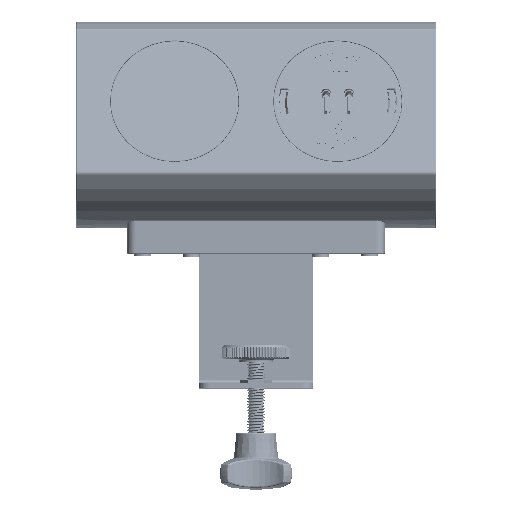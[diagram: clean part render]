
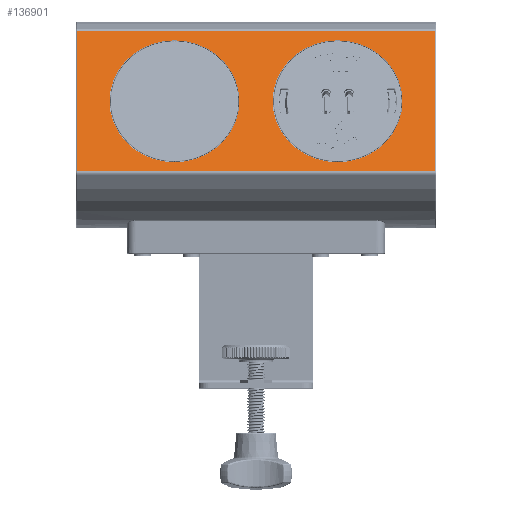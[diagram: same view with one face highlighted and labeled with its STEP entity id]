
A CAD part, top view. The second image highlights one B-rep face of the part: STEP entity #136901.
In plain terms, the highlighted planar face has unit normal (0, 0.342, 0.94).
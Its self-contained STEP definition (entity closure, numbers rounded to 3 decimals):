
#1223 = LINE ( 'NONE', #48321, #62741 ) ;
#2171 = EDGE_CURVE ( 'NONE', #125054, #125054, #58366, .T. ) ;
#8750 = EDGE_CURVE ( 'NONE', #128053, #121860, #131479, .T. ) ;
#9664 = CARTESIAN_POINT ( 'NONE',  ( 62.8, 32.791, 13.871 ) ) ;
#10854 = ORIENTED_EDGE ( 'NONE', *, *, #60972, .T. ) ;
#15143 = EDGE_CURVE ( 'NONE', #54722, #104297, #1223, .T. ) ;
#19565 = EDGE_CURVE ( 'NONE', #54722, #121860, #41942, .T. ) ;
#20005 = VERTEX_POINT ( 'NONE', #45087 ) ;
#20664 = DIRECTION ( 'NONE',  ( 0., 0.94, -0.342 ) ) ;
#22162 = CARTESIAN_POINT ( 'NONE',  ( -28.5, 8.294, 22.788 ) ) ;
#24115 = ORIENTED_EDGE ( 'NONE', *, *, #2171, .T. ) ;
#24136 = EDGE_LOOP ( 'NONE', ( #24115 ) ) ;
#29150 = LINE ( 'NONE', #113142, #85681 ) ;
#32623 = EDGE_LOOP ( 'NONE', ( #130321, #75994, #87085, #42755 ) ) ;
#33954 = DIRECTION ( 'NONE',  ( 0., -0.342, -0.94 ) ) ;
#41163 = DIRECTION ( 'NONE',  ( -1., 0., 0. ) ) ;
#41942 = LINE ( 'NONE', #64698, #96341 ) ;
#42755 = ORIENTED_EDGE ( 'NONE', *, *, #15143, .T. ) ;
#45087 = CARTESIAN_POINT ( 'NONE',  ( -28.5, 29.625, 15.024 ) ) ;
#45907 = DIRECTION ( 'NONE',  ( 0., -0.94, 0.342 ) ) ;
#46845 = VECTOR ( 'NONE', #45907, 1000. ) ;
#48321 = CARTESIAN_POINT ( 'NONE',  ( 62.6, 32.791, 13.871 ) ) ;
#54722 = VERTEX_POINT ( 'NONE', #76847 ) ;
#54784 = DIRECTION ( 'NONE',  ( 0., -0.342, -0.94 ) ) ;
#55818 = CIRCLE ( 'NONE', #98361, 22.7 ) ;
#58305 = FACE_BOUND ( 'NONE', #24136, .T. ) ;
#58366 = CIRCLE ( 'NONE', #88444, 22.7 ) ;
#60972 = EDGE_CURVE ( 'NONE', #20005, #20005, #55818, .T. ) ;
#62741 = VECTOR ( 'NONE', #74270, 1000. ) ;
#64062 = AXIS2_PLACEMENT_3D ( 'NONE', #9664, #80345, #20664 ) ;
#64698 = CARTESIAN_POINT ( 'NONE',  ( 62.8, -16.203, 31.704 ) ) ;
#65383 = CARTESIAN_POINT ( 'NONE',  ( 28.5, 29.625, 15.024 ) ) ;
#74270 = DIRECTION ( 'NONE',  ( 0., 0.94, -0.342 ) ) ;
#75994 = ORIENTED_EDGE ( 'NONE', *, *, #8750, .T. ) ;
#76847 = CARTESIAN_POINT ( 'NONE',  ( 62.6, -16.203, 31.704 ) ) ;
#80345 = DIRECTION ( 'NONE',  ( 0., -0.342, -0.94 ) ) ;
#85681 = VECTOR ( 'NONE', #116228, 1000. ) ;
#87085 = ORIENTED_EDGE ( 'NONE', *, *, #19565, .F. ) ;
#88444 = AXIS2_PLACEMENT_3D ( 'NONE', #101931, #54784, #152131 ) ;
#92140 = FACE_BOUND ( 'NONE', #114044, .T. ) ;
#96341 = VECTOR ( 'NONE', #41163, 1000. ) ;
#98361 = AXIS2_PLACEMENT_3D ( 'NONE', #22162, #33954, #128141 ) ;
#101931 = CARTESIAN_POINT ( 'NONE',  ( 28.5, 8.294, 22.788 ) ) ;
#104297 = VERTEX_POINT ( 'NONE', #115071 ) ;
#104685 = PLANE ( 'NONE',  #64062 ) ;
#105601 = CARTESIAN_POINT ( 'NONE',  ( -62.6, -16.203, 31.704 ) ) ;
#105801 = EDGE_CURVE ( 'NONE', #104297, #128053, #29150, .T. ) ;
#113142 = CARTESIAN_POINT ( 'NONE',  ( 62.8, 32.791, 13.871 ) ) ;
#114044 = EDGE_LOOP ( 'NONE', ( #10854 ) ) ;
#115071 = CARTESIAN_POINT ( 'NONE',  ( 62.6, 32.791, 13.871 ) ) ;
#116228 = DIRECTION ( 'NONE',  ( -1., 0., 0. ) ) ;
#117210 = FACE_OUTER_BOUND ( 'NONE', #32623, .T. ) ;
#121860 = VERTEX_POINT ( 'NONE', #135836 ) ;
#125054 = VERTEX_POINT ( 'NONE', #65383 ) ;
#128053 = VERTEX_POINT ( 'NONE', #139630 ) ;
#128141 = DIRECTION ( 'NONE',  ( 0., 0.94, -0.342 ) ) ;
#130321 = ORIENTED_EDGE ( 'NONE', *, *, #105801, .T. ) ;
#131479 = LINE ( 'NONE', #105601, #46845 ) ;
#135836 = CARTESIAN_POINT ( 'NONE',  ( -62.6, -16.203, 31.704 ) ) ;
#136901 = ADVANCED_FACE ( 'NONE', ( #58305, #92140, #117210 ), #104685, .F. ) ;
#139630 = CARTESIAN_POINT ( 'NONE',  ( -62.6, 32.791, 13.871 ) ) ;
#152131 = DIRECTION ( 'NONE',  ( 0., 0.94, -0.342 ) ) ;
